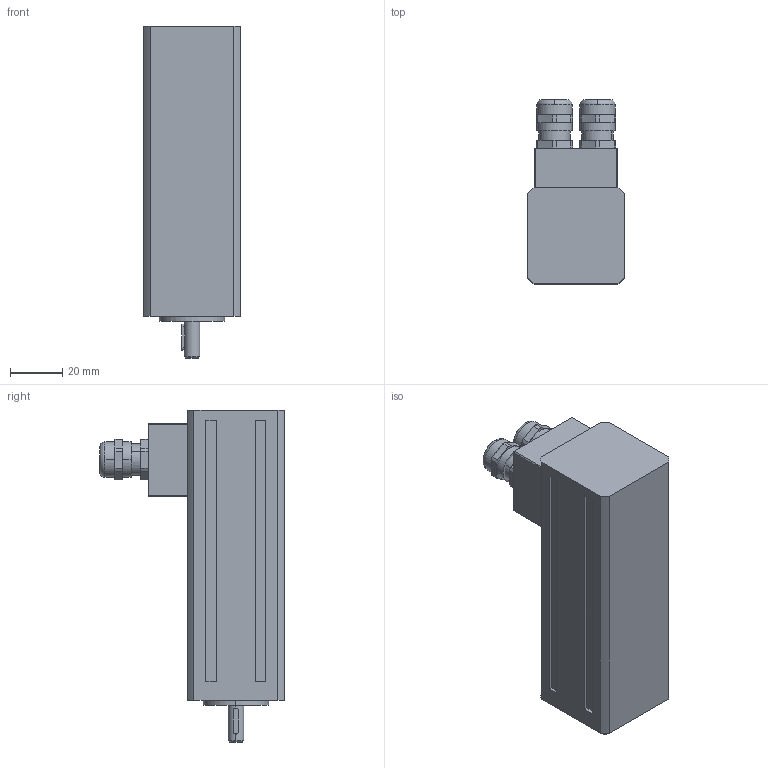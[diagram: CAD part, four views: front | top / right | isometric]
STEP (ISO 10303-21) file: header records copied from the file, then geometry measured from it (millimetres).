
FILE_DESCRIPTION(('STEP AP203'),'2;1');
FILE_NAME('MT1-0010_B.stp','2006-08-28T19:51:19',(''),(''),'2005.2.102','THINKDESIGN','');
FILE_SCHEMA(('CONFIG_CONTROL_DESIGN'));
Length unit declared in the file: millimetre
Bounding box: 37 x 70.6 x 127 mm (x, y, z)
Volume: 165166.7 mm3; surface area: 27489.2 mm2
Topology: 5 solids, 5 shells, 192 faces, 461 edges, 298 vertices
Faces by surface type: plane 82, cylinder 66, bspline 44
Entity records: 5950 total; most frequent: CARTESIAN_POINT 1399, DIRECTION 939, ORIENTED_EDGE 906, EDGE_CURVE 453, AXIS2_PLACEMENT_3D 342, VERTEX_POINT 298, VECTOR 255, LINE 255
